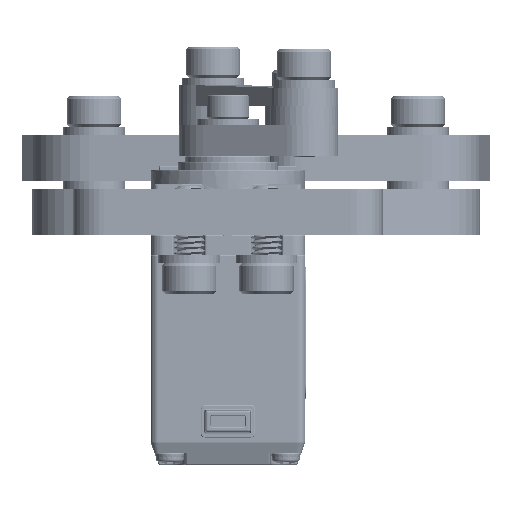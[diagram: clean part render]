
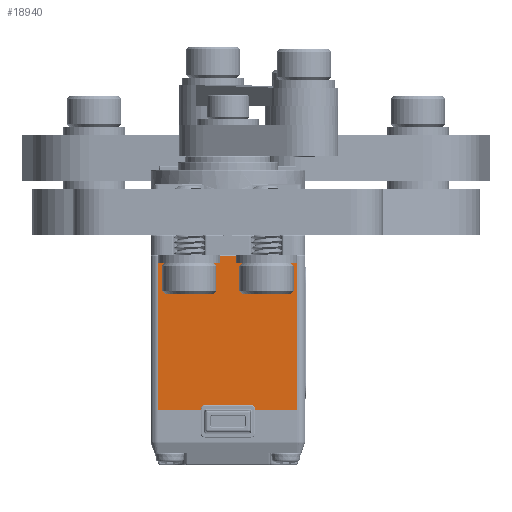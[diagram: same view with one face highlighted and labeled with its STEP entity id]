
A CAD part, front view. The second image highlights one B-rep face of the part: STEP entity #18940.
In plain terms, the highlighted planar face has unit normal (0, -1, 0) as drawn and (1, 0, 0) by its records, which use the part's own axes.
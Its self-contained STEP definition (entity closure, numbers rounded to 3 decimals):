
#3283=FACE_OUTER_BOUND('',#4467,.T.);
#4467=EDGE_LOOP('',(#15180,#15181,#15182,#15183));
#5767=LINE('',#37122,#7076);
#5772=LINE('',#37152,#7081);
#5774=LINE('',#37158,#7083);
#5775=LINE('',#37159,#7084);
#7076=VECTOR('',#24734,10.);
#7081=VECTOR('',#24771,10.);
#7083=VECTOR('',#24777,10.);
#7084=VECTOR('',#24778,10.);
#8557=VERTEX_POINT('',#37112);
#8559=VERTEX_POINT('',#37118);
#8569=VERTEX_POINT('',#37151);
#8571=VERTEX_POINT('',#37157);
#10892=EDGE_CURVE('',#8557,#8559,#5767,.T.);
#10907=EDGE_CURVE('',#8569,#8559,#5772,.T.);
#10910=EDGE_CURVE('',#8571,#8557,#5774,.T.);
#10911=EDGE_CURVE('',#8571,#8569,#5775,.T.);
#15180=ORIENTED_EDGE('',*,*,#10892,.F.);
#15181=ORIENTED_EDGE('',*,*,#10910,.F.);
#15182=ORIENTED_EDGE('',*,*,#10911,.T.);
#15183=ORIENTED_EDGE('',*,*,#10907,.T.);
#18233=PLANE('',#20858);
#18940=ADVANCED_FACE('',(#3283),#18233,.T.);
#20858=AXIS2_PLACEMENT_3D('',#37156,#24775,#24776);
#24734=DIRECTION('',(0.,1.,0.));
#24771=DIRECTION('',(0.,0.,1.));
#24775=DIRECTION('center_axis',(1.,0.,0.));
#24776=DIRECTION('ref_axis',(0.,1.,0.));
#24777=DIRECTION('',(0.,0.,1.));
#24778=DIRECTION('',(0.,1.,0.));
#37112=CARTESIAN_POINT('',(20.,-9.,19.9));
#37118=CARTESIAN_POINT('',(20.,9.,19.9));
#37122=CARTESIAN_POINT('',(20.,-4.5,19.9));
#37151=CARTESIAN_POINT('',(20.,9.,0.));
#37152=CARTESIAN_POINT('',(20.,9.,0.));
#37156=CARTESIAN_POINT('Origin',(20.,-9.,0.));
#37157=CARTESIAN_POINT('',(20.,-9.,0.));
#37158=CARTESIAN_POINT('',(20.,-9.,0.));
#37159=CARTESIAN_POINT('',(20.,-9.,0.));
